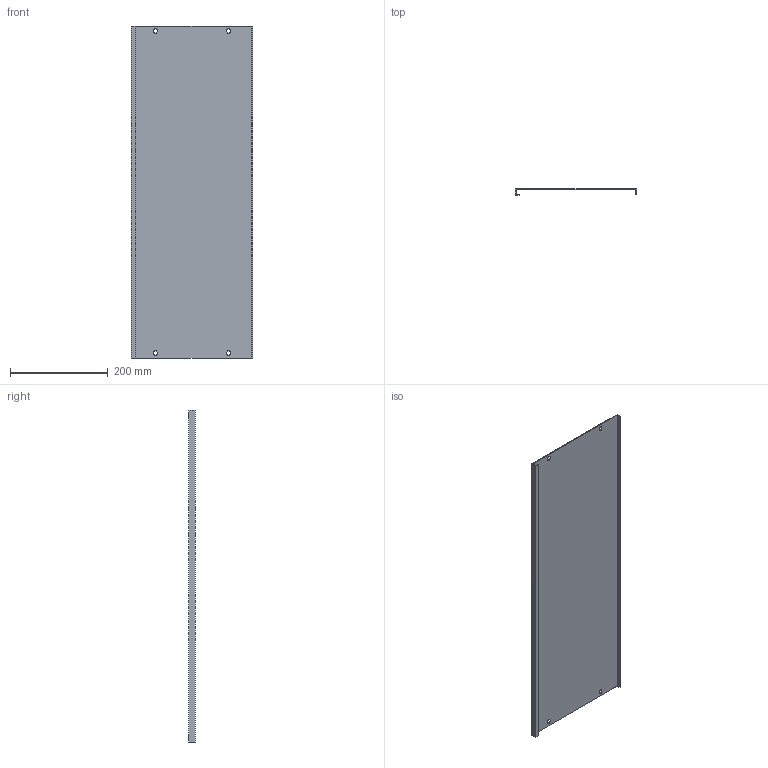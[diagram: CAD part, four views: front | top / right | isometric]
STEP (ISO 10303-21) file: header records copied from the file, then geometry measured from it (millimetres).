
FILE_DESCRIPTION (( 'STEP AP214' ), '1' );
FILE_NAME ('FO-00-PVS-025-080 Ïëàñòðîí ãëóõîé âíóòðåííèé 250õ800.STEP', '2025-08-26T10:17:52', ( '' ), ( '' ), 'SwSTEP 2.0', 'SolidWorks 2023', '' );
FILE_SCHEMA (( 'AUTOMOTIVE_DESIGN' ));
Length unit declared in the file: millimetre
Products named in the file (1): FO-00-PVS-025-080 Пластрон глухой внутренний 250х800
Bounding box: 248 x 12.5 x 679 mm (x, y, z)
Volume: 278712.1 mm3; surface area: 374643.1 mm2
Topology: 1 solids, 1 shells, 42 faces, 120 edges, 80 vertices
Faces by surface type: plane 30, cylinder 12
Entity records: 1407 total; most frequent: CARTESIAN_POINT 243, ORIENTED_EDGE 240, DIRECTION 230, EDGE_CURVE 120, VECTOR 96, LINE 96, VERTEX_POINT 80, AXIS2_PLACEMENT_3D 67
